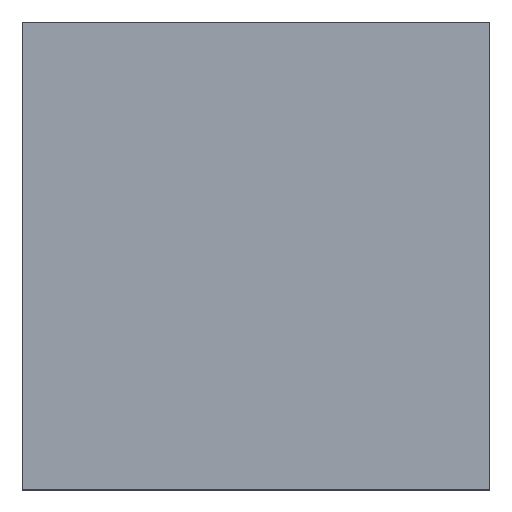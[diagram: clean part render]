
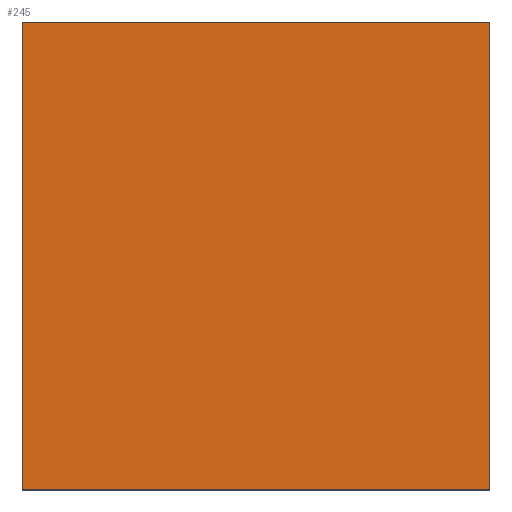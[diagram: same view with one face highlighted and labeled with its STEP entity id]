
A CAD part, top view. The second image highlights one B-rep face of the part: STEP entity #245.
In plain terms, the highlighted planar face has unit normal (0, 0, 1).
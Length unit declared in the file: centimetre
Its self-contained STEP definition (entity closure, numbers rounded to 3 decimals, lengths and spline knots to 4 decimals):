
#14 = PLANE ( 'NONE',  #30 ) ;
#16 = CARTESIAN_POINT ( 'NONE',  ( 1000., 1000., 1000. ) ) ;
#30 = AXIS2_PLACEMENT_3D ( 'NONE', #308, #80, #174 ) ;
#50 = CARTESIAN_POINT ( 'NONE',  ( 0., 1000., 1000. ) ) ;
#61 = VECTOR ( 'NONE', #296, 100. ) ;
#71 = CARTESIAN_POINT ( 'NONE',  ( 0., 1000., 1000. ) ) ;
#80 = DIRECTION ( 'NONE',  ( 0., 0., 1. ) ) ;
#81 = VECTOR ( 'NONE', #313, 100. ) ;
#98 = LINE ( 'NONE', #291, #61 ) ;
#111 = CARTESIAN_POINT ( 'NONE',  ( 0., 1000., 1000. ) ) ;
#112 = EDGE_CURVE ( 'NONE', #286, #316, #198, .T. ) ;
#113 = LINE ( 'NONE', #111, #242 ) ;
#122 = VERTEX_POINT ( 'NONE', #196 ) ;
#152 = VERTEX_POINT ( 'NONE', #340 ) ;
#174 = DIRECTION ( 'NONE',  ( 1., 0., 0. ) ) ;
#196 = CARTESIAN_POINT ( 'NONE',  ( 1000., 0., 1000. ) ) ;
#198 = LINE ( 'NONE', #71, #280 ) ;
#209 = DIRECTION ( 'NONE',  ( 0., -1., 0. ) ) ;
#232 = EDGE_CURVE ( 'NONE', #122, #286, #384, .T. ) ;
#242 = VECTOR ( 'NONE', #209, 100. ) ;
#243 = FACE_OUTER_BOUND ( 'NONE', #423, .T. ) ;
#245 = ADVANCED_FACE ( 'NONE', ( #243 ), #14, .T. ) ;
#248 = CARTESIAN_POINT ( 'NONE',  ( 1000., 1000., 1000. ) ) ;
#269 = DIRECTION ( 'NONE',  ( -1., 0., 0. ) ) ;
#279 = ORIENTED_EDGE ( 'NONE', *, *, #422, .T. ) ;
#280 = VECTOR ( 'NONE', #269, 100. ) ;
#286 = VERTEX_POINT ( 'NONE', #248 ) ;
#291 = CARTESIAN_POINT ( 'NONE',  ( 0., 0., 1000. ) ) ;
#296 = DIRECTION ( 'NONE',  ( 1., 0., 0. ) ) ;
#308 = CARTESIAN_POINT ( 'NONE',  ( 0., 0., 1000. ) ) ;
#313 = DIRECTION ( 'NONE',  ( 0., 1., 0. ) ) ;
#316 = VERTEX_POINT ( 'NONE', #50 ) ;
#329 = ORIENTED_EDGE ( 'NONE', *, *, #112, .T. ) ;
#330 = ORIENTED_EDGE ( 'NONE', *, *, #336, .T. ) ;
#336 = EDGE_CURVE ( 'NONE', #316, #152, #113, .T. ) ;
#340 = CARTESIAN_POINT ( 'NONE',  ( 0., 0., 1000. ) ) ;
#362 = ORIENTED_EDGE ( 'NONE', *, *, #232, .T. ) ;
#384 = LINE ( 'NONE', #16, #81 ) ;
#422 = EDGE_CURVE ( 'NONE', #152, #122, #98, .T. ) ;
#423 = EDGE_LOOP ( 'NONE', ( #330, #279, #362, #329 ) ) ;
